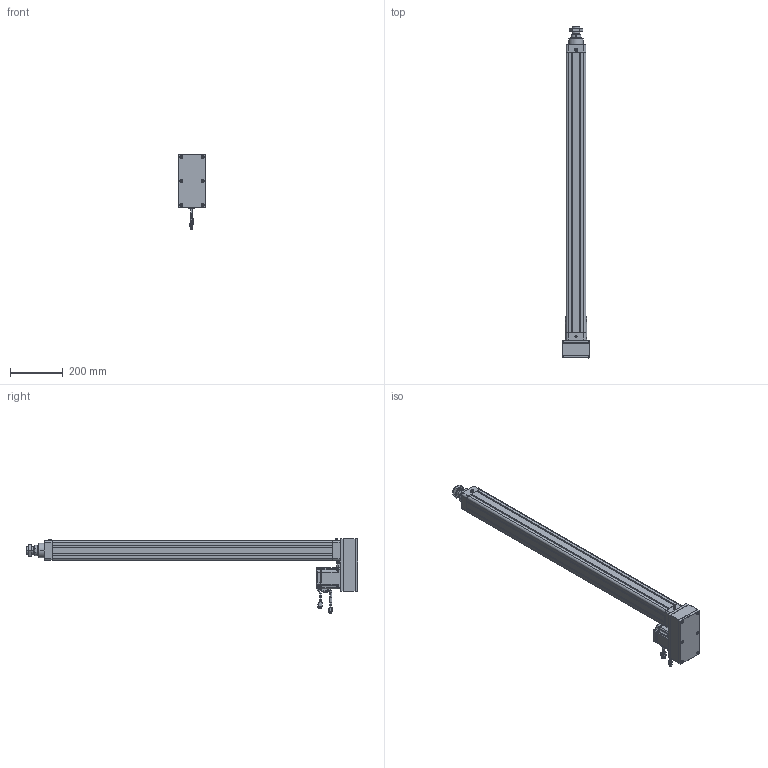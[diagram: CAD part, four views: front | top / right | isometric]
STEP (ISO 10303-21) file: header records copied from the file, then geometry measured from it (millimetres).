
FILE_DESCRIPTION((''),'2;1');
FILE_NAME('ASM0001_ASM','2020-04-02T',('ASUS20200'),(''),'CREO PARAMETRIC BY PTC INC, 2014190','CREO PARAMETRIC BY PTC INC, 2014190','');
FILE_SCHEMA(('CONFIG_CONTROL_DESIGN'));
Length unit declared in the file: millimetre
Products named in the file (29): HE63-D-P-001-X1; HE63-D-P-002-X1; HE63-D-P-003-X1; LGLM-M8-22; SLM-01; YZ-M6X1; JDB405030; HE63-P-010-X1-80N; _MHMF082L1A2; _CABLE_MOTOR_BOTTOM_05; _CABLE_MOTOR_TOP_05; _MOTOR_CONNECTOR_2; _CABLE_BRAKE_BOTTOM_05; _CABLE_BRAKE_TOP_05; _MHMF_CONNECTOR_9_PIN_A6; MHMF082L1A2M2_1_ASM; JX6X6X25; HE63-P-012-X1; HE63-P-013-X1; M6X60; JM-M8; LM-M8-15; LM-M8X1-25; HE63-D-P-005-X1; HE63-D-P-004-X1; HE63-D-P-008-X1; TD-6; M6X25; ASM0001_ASM
Assembly tree (46 placements, depth 3):
  ASM0001_ASM
    HE63-D-P-001-X1
    HE63-D-P-002-X1
    HE63-D-P-003-X1
    LGLM-M8-22  x8
    SLM-01
    YZ-M6X1
    JDB405030
    HE63-P-010-X1-80N
    MHMF082L1A2M2_1_ASM
      _MHMF082L1A2
      _CABLE_MOTOR_BOTTOM_05
      _CABLE_MOTOR_TOP_05
      _MOTOR_CONNECTOR_2
      _CABLE_BRAKE_BOTTOM_05
      _CABLE_BRAKE_TOP_05
      _MHMF_CONNECTOR_9_PIN_A6
    JX6X6X25
    HE63-P-012-X1
    HE63-P-013-X1
    M6X60  x6
    JM-M8
    LM-M8-15
    LM-M8X1-25
    HE63-D-P-005-X1
    HE63-D-P-004-X1
    HE63-D-P-008-X1
    TD-6  x4
    M6X25  x4
Bounding box: 100 x 1257 x 284.15 mm (x, y, z)
Volume: 3720599 mm3; surface area: 1115813.9 mm2
Topology: 45 solids, 75 shells, 2611 faces, 6333 edges, 3952 vertices
Faces by surface type: plane 1141, cylinder 742, cone 549, torus 134, sphere 42, bspline 3
Entity records: 65416 total; most frequent: CARTESIAN_POINT 12495, DIRECTION 11587, ORIENTED_EDGE 10386, EDGE_CURVE 5247, AXIS2_PLACEMENT_3D 4315, VERTEX_POINT 3299, VECTOR 2957, LINE 2957
